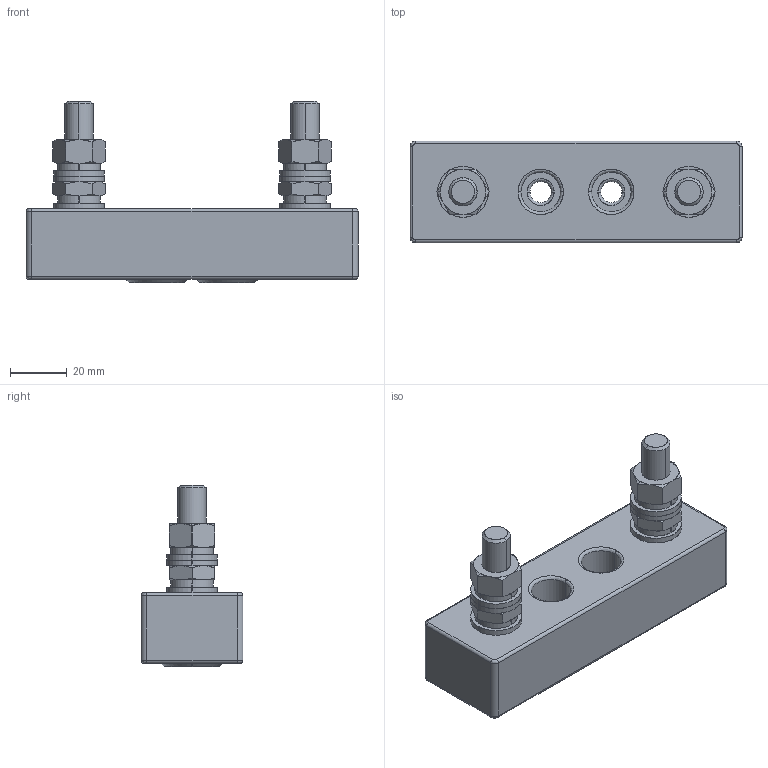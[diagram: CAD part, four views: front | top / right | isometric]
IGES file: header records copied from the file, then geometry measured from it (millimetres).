
Start section: SolidWorks IGES file using analytic representation for surfaces
Global section: file name: U:\14_RD\05_Technical_office\04_Office\Hrdinova\3D modely - IGES\Varius - Ostatní\SP41T06.IGS; native system: SolidWorks 2011; preprocessor: SolidWorks 2011; author: adhrja3; date: 170620.141918; units: millimetre
Bounding box: 117.5 x 36 x 64.2 mm (x, y, z)
Surface area: 32149 mm2 (no closed solid volume)
Topology: 0 solids, 0 shells, 357 faces, 5023 edges, 5023 vertices
Faces by surface type: revolution 187, bspline 170
